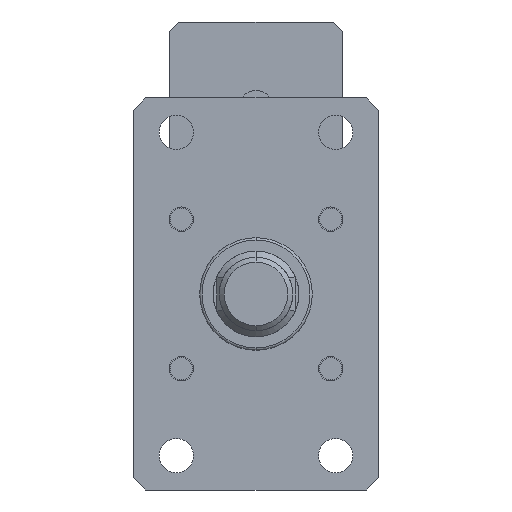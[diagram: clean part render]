
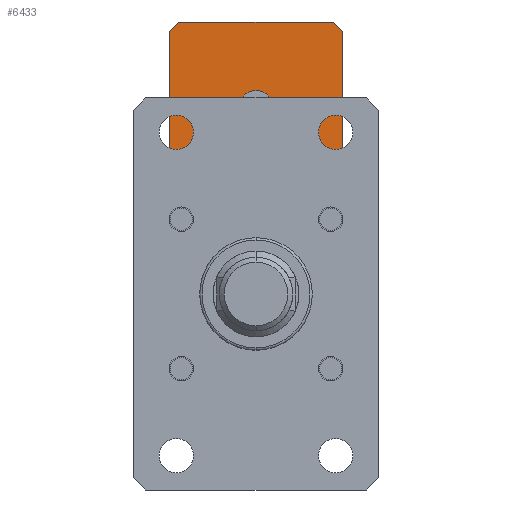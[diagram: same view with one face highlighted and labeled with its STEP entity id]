
A CAD part, front view. The second image highlights one B-rep face of the part: STEP entity #6433.
In plain terms, the highlighted planar face has unit normal (0, -1, 0).
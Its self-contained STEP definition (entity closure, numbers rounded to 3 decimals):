
#93 = EDGE_CURVE ( 'NONE', #2287, #4736, #3294, .T. ) ;
#214 = VECTOR ( 'NONE', #6233, 1000. ) ;
#277 = ORIENTED_EDGE ( 'NONE', *, *, #3501, .F. ) ;
#310 = CARTESIAN_POINT ( 'NONE',  ( 31.5, 210., 111. ) ) ;
#330 = VECTOR ( 'NONE', #6230, 1000. ) ;
#422 = LINE ( 'NONE', #310, #1694 ) ;
#431 = VERTEX_POINT ( 'NONE', #2958 ) ;
#496 = VECTOR ( 'NONE', #3796, 1000. ) ;
#520 = DIRECTION ( 'NONE',  ( -0.707, 0., -0.707 ) ) ;
#653 = AXIS2_PLACEMENT_3D ( 'NONE', #6743, #6768, #3404 ) ;
#668 = VERTEX_POINT ( 'NONE', #5465 ) ;
#828 = ORIENTED_EDGE ( 'NONE', *, *, #93, .F. ) ;
#1081 = LINE ( 'NONE', #4985, #2709 ) ;
#1123 = EDGE_CURVE ( 'NONE', #4394, #3022, #6102, .T. ) ;
#1191 = ORIENTED_EDGE ( 'NONE', *, *, #4311, .F. ) ;
#1222 = EDGE_LOOP ( 'NONE', ( #828, #277 ) ) ;
#1247 = VERTEX_POINT ( 'NONE', #5188 ) ;
#1633 = DIRECTION ( 'NONE',  ( 0.707, 0., -0.707 ) ) ;
#1694 = VECTOR ( 'NONE', #6430, 1000. ) ;
#2226 = ORIENTED_EDGE ( 'NONE', *, *, #2723, .T. ) ;
#2287 = VERTEX_POINT ( 'NONE', #3106 ) ;
#2299 = ORIENTED_EDGE ( 'NONE', *, *, #1123, .T. ) ;
#2407 = VECTOR ( 'NONE', #2983, 1000. ) ;
#2457 = LINE ( 'NONE', #4979, #3792 ) ;
#2600 = DIRECTION ( 'NONE',  ( 0., -1., 0. ) ) ;
#2618 = ORIENTED_EDGE ( 'NONE', *, *, #4844, .T. ) ;
#2699 = EDGE_LOOP ( 'NONE', ( #2299, #2618, #2226, #3797, #1191, #6057, #3988, #5435 ) ) ;
#2709 = VECTOR ( 'NONE', #1633, 1000. ) ;
#2723 = EDGE_CURVE ( 'NONE', #5701, #6710, #3899, .T. ) ;
#2869 = AXIS2_PLACEMENT_3D ( 'NONE', #5987, #2600, #6531 ) ;
#2896 = VERTEX_POINT ( 'NONE', #7079 ) ;
#2952 = DIRECTION ( 'NONE',  ( 0., -1., 0. ) ) ;
#2958 = CARTESIAN_POINT ( 'NONE',  ( 31.5, 210., 111. ) ) ;
#2983 = DIRECTION ( 'NONE',  ( 1., 0., 0. ) ) ;
#3022 = VERTEX_POINT ( 'NONE', #4768 ) ;
#3106 = CARTESIAN_POINT ( 'NONE',  ( 0., 210., 68. ) ) ;
#3294 = CIRCLE ( 'NONE', #6294, 7.5 ) ;
#3359 = PLANE ( 'NONE',  #653 ) ;
#3404 = DIRECTION ( 'NONE',  ( 0., 0., 1. ) ) ;
#3418 = CARTESIAN_POINT ( 'NONE',  ( -35.5, 210., 111. ) ) ;
#3437 = LINE ( 'NONE', #7146, #496 ) ;
#3501 = EDGE_CURVE ( 'NONE', #4736, #2287, #4423, .T. ) ;
#3792 = VECTOR ( 'NONE', #520, 1000. ) ;
#3796 = DIRECTION ( 'NONE',  ( 0.707, 0., 0.707 ) ) ;
#3797 = ORIENTED_EDGE ( 'NONE', *, *, #6065, .T. ) ;
#3899 = LINE ( 'NONE', #5246, #2407 ) ;
#3962 = FACE_OUTER_BOUND ( 'NONE', #2699, .T. ) ;
#3988 = ORIENTED_EDGE ( 'NONE', *, *, #3999, .F. ) ;
#3999 = EDGE_CURVE ( 'NONE', #2896, #431, #4670, .T. ) ;
#4004 = CARTESIAN_POINT ( 'NONE',  ( -31.5, 210., 40. ) ) ;
#4142 = FACE_BOUND ( 'NONE', #1222, .T. ) ;
#4311 = EDGE_CURVE ( 'NONE', #1247, #668, #7040, .T. ) ;
#4394 = VERTEX_POINT ( 'NONE', #5645 ) ;
#4423 = CIRCLE ( 'NONE', #2869, 7.5 ) ;
#4453 = DIRECTION ( 'NONE',  ( 0., 0., -1. ) ) ;
#4670 = LINE ( 'NONE', #6261, #214 ) ;
#4736 = VERTEX_POINT ( 'NONE', #5459 ) ;
#4768 = CARTESIAN_POINT ( 'NONE',  ( -35.5, 210., 44. ) ) ;
#4772 = CARTESIAN_POINT ( 'NONE',  ( 31.5, 210., 40. ) ) ;
#4844 = EDGE_CURVE ( 'NONE', #3022, #5701, #1081, .T. ) ;
#4979 = CARTESIAN_POINT ( 'NONE',  ( -31.5, 210., 111. ) ) ;
#4985 = CARTESIAN_POINT ( 'NONE',  ( -35.5, 210., 44. ) ) ;
#5010 = CARTESIAN_POINT ( 'NONE',  ( 35.5, 210., 111. ) ) ;
#5152 = EDGE_CURVE ( 'NONE', #2896, #4394, #2457, .T. ) ;
#5188 = CARTESIAN_POINT ( 'NONE',  ( 35.5, 210., 107. ) ) ;
#5246 = CARTESIAN_POINT ( 'NONE',  ( -35.5, 210., 40. ) ) ;
#5435 = ORIENTED_EDGE ( 'NONE', *, *, #5152, .T. ) ;
#5459 = CARTESIAN_POINT ( 'NONE',  ( 0., 210., 83. ) ) ;
#5465 = CARTESIAN_POINT ( 'NONE',  ( 35.5, 210., 44. ) ) ;
#5547 = VECTOR ( 'NONE', #4453, 1000. ) ;
#5645 = CARTESIAN_POINT ( 'NONE',  ( -35.5, 210., 107. ) ) ;
#5701 = VERTEX_POINT ( 'NONE', #4004 ) ;
#5906 = EDGE_CURVE ( 'NONE', #1247, #431, #422, .T. ) ;
#5987 = CARTESIAN_POINT ( 'NONE',  ( 0., 210., 75.5 ) ) ;
#6057 = ORIENTED_EDGE ( 'NONE', *, *, #5906, .T. ) ;
#6065 = EDGE_CURVE ( 'NONE', #6710, #668, #3437, .T. ) ;
#6102 = LINE ( 'NONE', #3418, #330 ) ;
#6230 = DIRECTION ( 'NONE',  ( 0., 0., -1. ) ) ;
#6233 = DIRECTION ( 'NONE',  ( 1., 0., 0. ) ) ;
#6261 = CARTESIAN_POINT ( 'NONE',  ( -35.5, 210., 111. ) ) ;
#6294 = AXIS2_PLACEMENT_3D ( 'NONE', #6324, #2952, #6881 ) ;
#6324 = CARTESIAN_POINT ( 'NONE',  ( 0., 210., 75.5 ) ) ;
#6430 = DIRECTION ( 'NONE',  ( -0.707, 0., 0.707 ) ) ;
#6433 = ADVANCED_FACE ( 'NONE', ( #4142, #3962 ), #3359, .F. ) ;
#6531 = DIRECTION ( 'NONE',  ( 0., 0., -1. ) ) ;
#6710 = VERTEX_POINT ( 'NONE', #4772 ) ;
#6743 = CARTESIAN_POINT ( 'NONE',  ( -35.5, 210., 111. ) ) ;
#6768 = DIRECTION ( 'NONE',  ( 0., 1., 0. ) ) ;
#6881 = DIRECTION ( 'NONE',  ( 0., 0., -1. ) ) ;
#7040 = LINE ( 'NONE', #5010, #5547 ) ;
#7079 = CARTESIAN_POINT ( 'NONE',  ( -31.5, 210., 111. ) ) ;
#7146 = CARTESIAN_POINT ( 'NONE',  ( 35.5, 210., 44. ) ) ;
